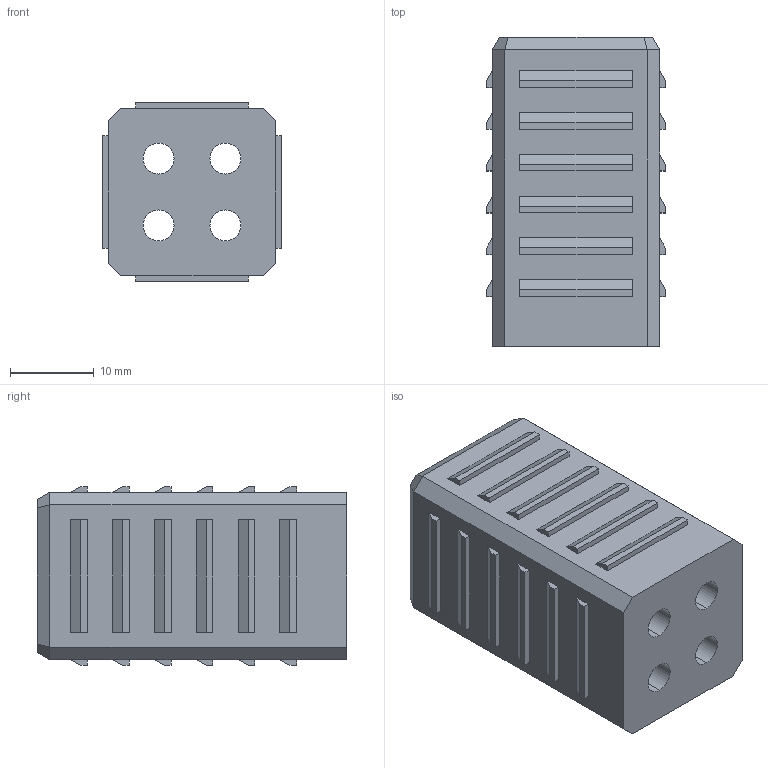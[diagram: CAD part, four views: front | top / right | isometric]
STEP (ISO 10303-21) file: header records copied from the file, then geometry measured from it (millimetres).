
FILE_DESCRIPTION (( 'STEP AP203' ), '1' );
FILE_NAME ('013.025.104.STEP', '2020-09-18T14:48:05', ( '' ), ( '' ), 'SwSTEP 2.0', 'SolidWorks 2018', '' );
FILE_SCHEMA (( 'CONFIG_CONTROL_DESIGN' ));
Length unit declared in the file: millimetre
Products named in the file (1): 013.025.104
Bounding box: 21.4 x 37 x 21.4 mm (x, y, z)
Volume: 7408.2 mm3; surface area: 6701.5 mm2
Topology: 1 solids, 1 shells, 204 faces, 520 edges, 344 vertices
Faces by surface type: plane 176, cylinder 28
Entity records: 6169 total; most frequent: CARTESIAN_POINT 1069, ORIENTED_EDGE 1040, DIRECTION 986, EDGE_CURVE 520, LINE 464, VECTOR 464, VERTEX_POINT 344, AXIS2_PLACEMENT_3D 261
